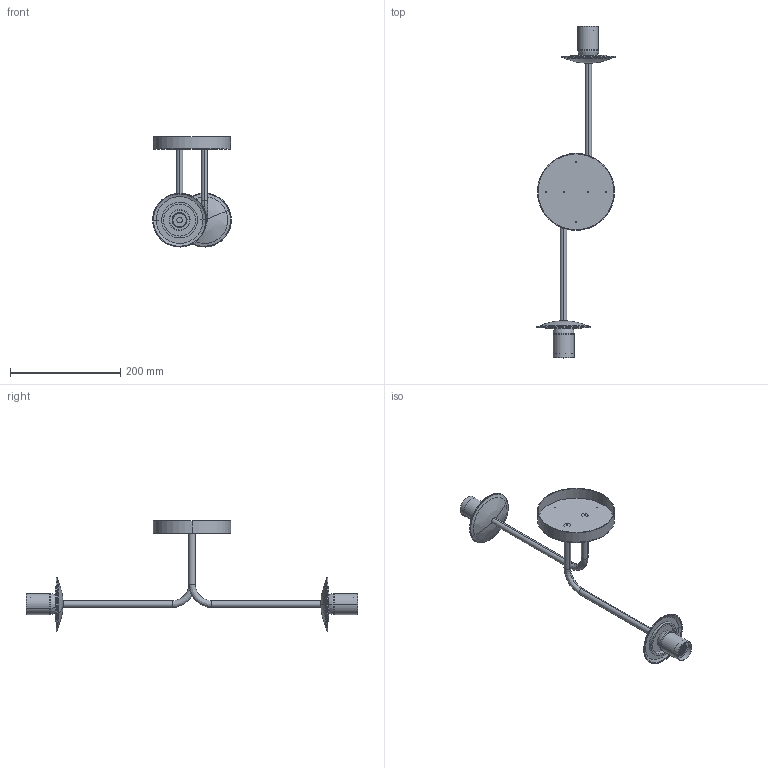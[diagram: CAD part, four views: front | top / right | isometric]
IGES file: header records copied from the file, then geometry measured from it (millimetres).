
Start section: SolidWorks IGES file using analytic representation for surfaces
Global section: file name: \\192.168.111.232\grupos\DISENYO\DESARROLLO DE PRODUCTO\PARMA-3946\PARMA - P3946280 - PLAFON 2 LUCES\P3946280 - PLAFON 2 LUCES.IGS; native system: SolidWorks 2025; preprocessor: SolidWorks 2025; author: o.domenech; date: 260213.133356; units: millimetre
Bounding box: 142.94 x 602.9 x 199.98 mm (x, y, z)
Volume: 239949.3 mm3; surface area: 139366.4 mm2
Topology: 7 solids, 7 shells, 159 faces, 1082 edges, 1294 vertices
Faces by surface type: revolution 118, plane 33, bspline 8
